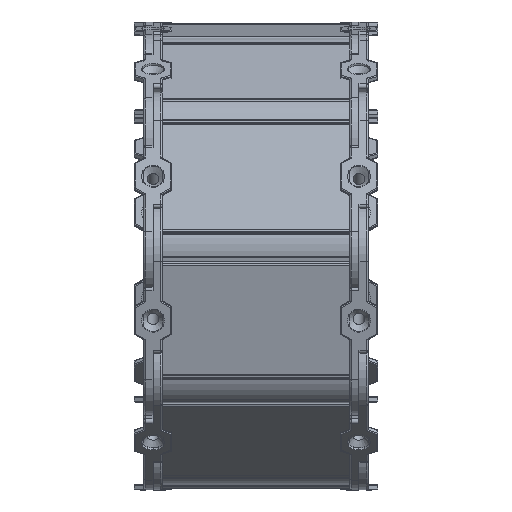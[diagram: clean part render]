
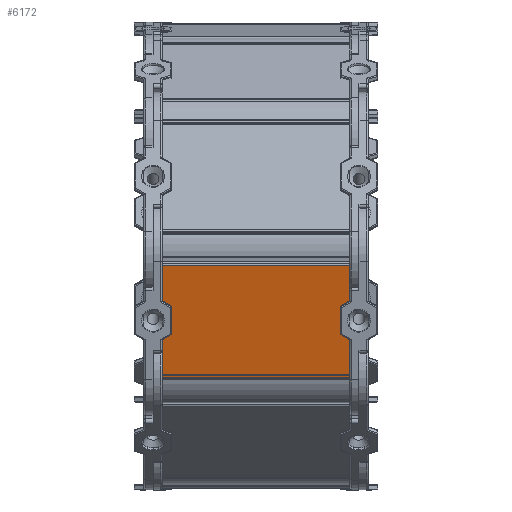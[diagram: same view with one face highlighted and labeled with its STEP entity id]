
A CAD part, front view. The second image highlights one B-rep face of the part: STEP entity #6172.
In plain terms, the highlighted planar face has unit normal (0, -0.97, -0.244) as drawn and (0, 0, 1) by its records, which use the part's own axes.
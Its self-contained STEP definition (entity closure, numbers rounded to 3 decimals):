
#5551=CARTESIAN_POINT('',(-111.861,22.814,8.));
#5552=VERTEX_POINT('',#5551);
#5559=CARTESIAN_POINT('',(-111.861,37.814,8.));
#5560=VERTEX_POINT('',#5559);
#5561=CARTESIAN_POINT('',(-111.861,37.814,8.));
#5562=DIRECTION('',(0.0,-1.0,0.0));
#5563=VECTOR('',#5562,15.0);
#5564=LINE('',#5561,#5563);
#5565=EDGE_CURVE('',#5560,#5552,#5564,.T.);
#5624=CARTESIAN_POINT('',(-116.861,40.7,8.));
#5625=VERTEX_POINT('',#5624);
#5626=CARTESIAN_POINT('',(-116.861,40.7,8.));
#5627=DIRECTION('',(0.866,-0.5,0.0));
#5628=VECTOR('',#5627,5.774);
#5629=LINE('',#5626,#5628);
#5630=EDGE_CURVE('',#5625,#5560,#5629,.T.);
#5688=CARTESIAN_POINT('',(-116.861,19.927,8.));
#5689=VERTEX_POINT('',#5688);
#5696=CARTESIAN_POINT('',(-111.861,22.814,8.));
#5697=DIRECTION('',(-0.866,-0.5,0.0));
#5698=VECTOR('',#5697,5.774);
#5699=LINE('',#5696,#5698);
#5700=EDGE_CURVE('',#5552,#5689,#5699,.T.);
#5869=CARTESIAN_POINT('',(-116.861,62.314,8.));
#5870=VERTEX_POINT('',#5869);
#5871=CARTESIAN_POINT('',(-116.861,62.314,8.));
#5872=DIRECTION('',(0.0,-1.0,0.0));
#5873=VECTOR('',#5872,21.613);
#5874=LINE('',#5871,#5873);
#5875=EDGE_CURVE('',#5870,#5625,#5874,.T.);
#5928=CARTESIAN_POINT('',(-21.861,22.814,8.));
#5929=VERTEX_POINT('',#5928);
#5936=CARTESIAN_POINT('',(-16.861,19.927,8.));
#5937=VERTEX_POINT('',#5936);
#5938=CARTESIAN_POINT('',(-16.861,19.927,8.));
#5939=DIRECTION('',(-0.866,0.5,0.0));
#5940=VECTOR('',#5939,5.774);
#5941=LINE('',#5938,#5940);
#5942=EDGE_CURVE('',#5937,#5929,#5941,.T.);
#5985=CARTESIAN_POINT('',(-16.861,40.7,8.));
#5986=VERTEX_POINT('',#5985);
#5993=CARTESIAN_POINT('',(-21.861,37.814,8.));
#5994=VERTEX_POINT('',#5993);
#5995=CARTESIAN_POINT('',(-21.861,37.814,8.));
#5996=DIRECTION('',(0.866,0.5,0.0));
#5997=VECTOR('',#5996,5.774);
#5998=LINE('',#5995,#5997);
#5999=EDGE_CURVE('',#5994,#5986,#5998,.T.);
#6026=CARTESIAN_POINT('',(-21.861,22.814,8.));
#6027=DIRECTION('',(0.0,1.0,0.0));
#6028=VECTOR('',#6027,15.);
#6029=LINE('',#6026,#6028);
#6030=EDGE_CURVE('',#5929,#5994,#6029,.T.);
#6122=CARTESIAN_POINT('',(-49.,0.,8.));
#6123=DIRECTION('',(0.0,0.0,1.0));
#6124=DIRECTION('',(-1.0,0.0,0.0));
#6125=AXIS2_PLACEMENT_3D('',#6122,#6123,#6124);
#6126=PLANE('',#6125);
#6127=ORIENTED_EDGE('',*,*,#5700,.T.);
#6128=CARTESIAN_POINT('',(-116.861,0.,8.));
#6129=VERTEX_POINT('',#6128);
#6130=CARTESIAN_POINT('',(-116.861,19.927,8.));
#6131=DIRECTION('',(0.0,-1.0,0.0));
#6132=VECTOR('',#6131,19.927);
#6133=LINE('',#6130,#6132);
#6134=EDGE_CURVE('',#5689,#6129,#6133,.T.);
#6135=ORIENTED_EDGE('',*,*,#6134,.T.);
#6136=CARTESIAN_POINT('',(-16.861,0.,8.));
#6137=VERTEX_POINT('',#6136);
#6138=CARTESIAN_POINT('',(-116.861,0.,8.));
#6139=DIRECTION('',(1.0,0.0,0.0));
#6140=VECTOR('',#6139,100.0);
#6141=LINE('',#6138,#6140);
#6142=EDGE_CURVE('',#6129,#6137,#6141,.T.);
#6143=ORIENTED_EDGE('',*,*,#6142,.T.);
#6144=CARTESIAN_POINT('',(-16.861,0.,8.));
#6145=DIRECTION('',(0.0,1.0,0.0));
#6146=VECTOR('',#6145,19.927);
#6147=LINE('',#6144,#6146);
#6148=EDGE_CURVE('',#6137,#5937,#6147,.T.);
#6149=ORIENTED_EDGE('',*,*,#6148,.T.);
#6150=ORIENTED_EDGE('',*,*,#5942,.T.);
#6151=ORIENTED_EDGE('',*,*,#6030,.T.);
#6152=ORIENTED_EDGE('',*,*,#5999,.T.);
#6153=CARTESIAN_POINT('',(-16.861,62.314,8.));
#6154=VERTEX_POINT('',#6153);
#6155=CARTESIAN_POINT('',(-16.861,40.7,8.));
#6156=DIRECTION('',(0.0,1.0,0.0));
#6157=VECTOR('',#6156,21.613);
#6158=LINE('',#6155,#6157);
#6159=EDGE_CURVE('',#5986,#6154,#6158,.T.);
#6160=ORIENTED_EDGE('',*,*,#6159,.T.);
#6161=CARTESIAN_POINT('',(-116.861,62.314,8.));
#6162=DIRECTION('',(1.0,0.0,0.0));
#6163=VECTOR('',#6162,100.);
#6164=LINE('',#6161,#6163);
#6165=EDGE_CURVE('',#5870,#6154,#6164,.T.);
#6166=ORIENTED_EDGE('',*,*,#6165,.F.);
#6167=ORIENTED_EDGE('',*,*,#5875,.T.);
#6168=ORIENTED_EDGE('',*,*,#5630,.T.);
#6169=ORIENTED_EDGE('',*,*,#5565,.T.);
#6170=EDGE_LOOP('',(#6127,#6135,#6143,#6149,#6150,#6151,#6152,#6160,#6166,#6167,#6168,#6169));
#6171=FACE_OUTER_BOUND('',#6170,.T.);
#6172=ADVANCED_FACE('',(#6171),#6126,.T.);
